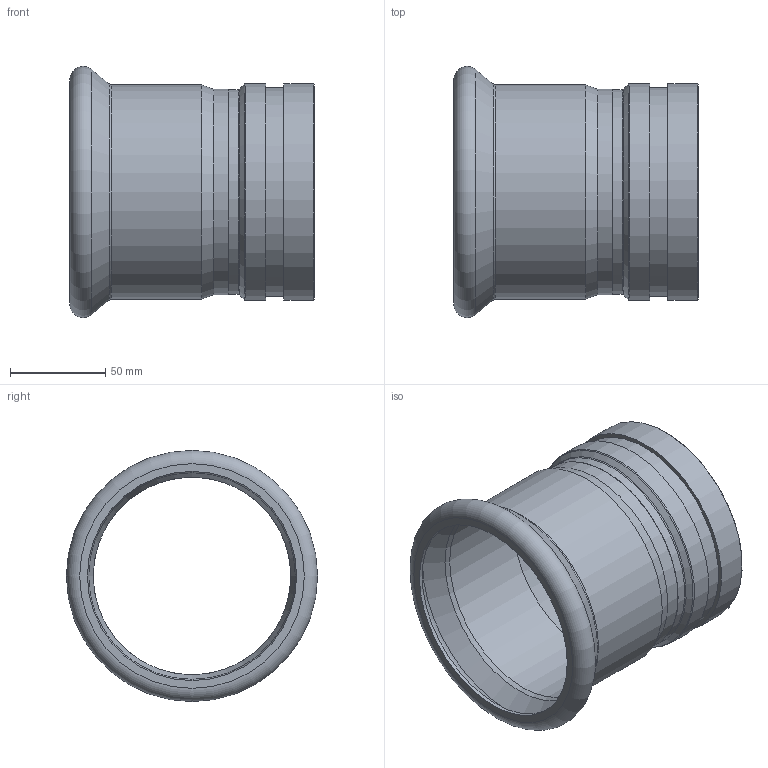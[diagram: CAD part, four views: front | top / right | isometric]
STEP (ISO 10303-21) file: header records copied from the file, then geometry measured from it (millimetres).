
FILE_DESCRIPTION((''),'2;1');
FILE_NAME('G:\Nirosan-Schmiedefeld\Technics\CAD\Bauteile VA\108\69250108114(0).stp','2012-05-18T12:44:42',('herberg'),(''),'Autodesk Inventor 2009','Autodesk Inventor 2009','');
FILE_SCHEMA(('AUTOMOTIVE_DESIGN { 1 0 10303 214 1 1 1 1 }'));
Length unit declared in the file: millimetre
Products named in the file (3): 69250108114(0); HM_69243108(0); sp108114(0)
Assembly tree (2 placements, depth 2):
  69250108114(0)
    HM_69243108(0)
    sp108114(0)
Bounding box: 128.5 x 132.16 x 132.16 mm (x, y, z)
Volume: 131519.8 mm3; surface area: 103238.3 mm2
Topology: 2 solids, 2 shells, 29 faces, 52 edges, 30 vertices
Faces by surface type: cylinder 10, plane 7, cone 6, torus 3, bspline 3
Full cylindrical faces by diameter (mm): 104 x2, 108 x2, 108.7 x1, 110 x2, 112.7 x1, 114.3 x2
Entity records: 801 total; most frequent: CARTESIAN_POINT 224, DIRECTION 120, AXIS2_PLACEMENT_3D 60, ORIENTED_EDGE 58, EDGE_LOOP 58, VERTEX_POINT 29, CIRCLE 29, EDGE_CURVE 29
